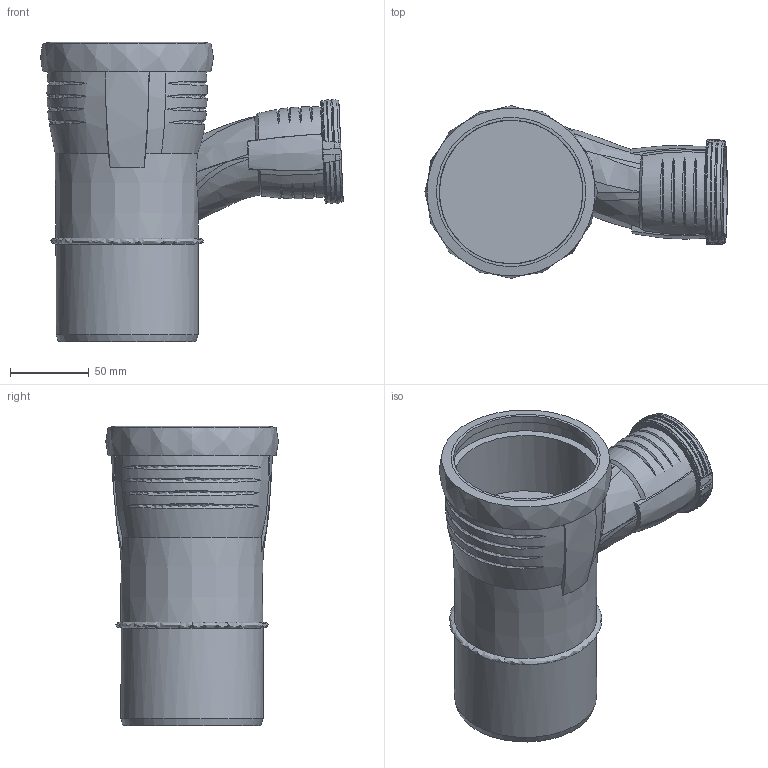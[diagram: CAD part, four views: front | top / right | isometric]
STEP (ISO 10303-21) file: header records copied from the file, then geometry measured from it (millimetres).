
FILE_DESCRIPTION(/* description */ (''),/* implementation_level */ '2;1');
FILE_NAME(/* name */ 'C:\Planerdaten\Export PLA\393.444.14.1\stp\393444.stp',/* time_stamp */ '2022-09-16T14:45:52+02:00',/* author */ ('JANAN'),/* organization */ (''),/* preprocessor_version */ 'ST-DEVELOPER v18.1',/* originating_system */ 'Autodesk Inventor 2021',/* authorisation */ '');
FILE_SCHEMA (('AUTOMOTIVE_DESIGN { 1 0 10303 214 3 1 1 }'));
Length unit declared in the file: millimetre
Products named in the file (1): tmpB034.tmp
Bounding box: 191.81 x 109.5 x 190 mm (x, y, z)
Volume: 764558.1 mm3; surface area: 141156.4 mm2
Topology: 2 solids, 2 shells, 176 faces, 489 edges, 323 vertices
Faces by surface type: bspline 116, cone 28, cylinder 17, plane 10, torus 5
Full cylindrical faces by diameter (mm): 50.7 x1, 60.1 x1, 81.6 x1, 90.2 x1, 90.9 x1, 91.2 x1, 100.2 x1
Entity records: 26657 total; most frequent: CARTESIAN_POINT 22621, ORIENTED_EDGE 952, DIRECTION 573, EDGE_CURVE 476, VERTEX_POINT 324, AXIS2_PLACEMENT_3D 265, B_SPLINE_CURVE_WITH_KNOTS 224, EDGE_LOOP 198
